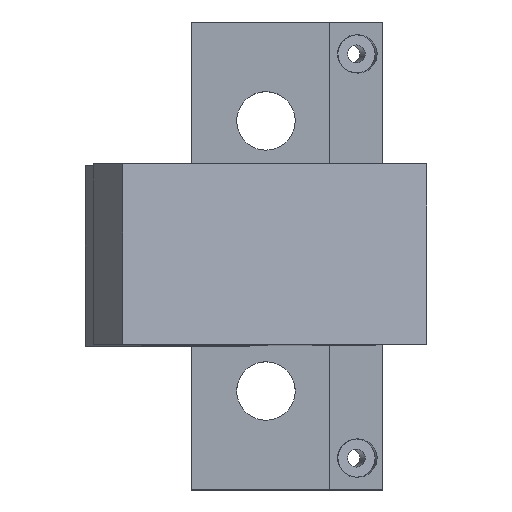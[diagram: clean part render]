
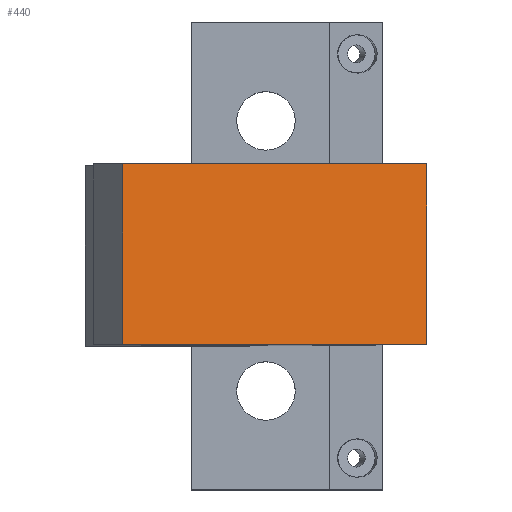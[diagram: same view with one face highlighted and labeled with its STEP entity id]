
A CAD part, top view. The second image highlights one B-rep face of the part: STEP entity #440.
In plain terms, the highlighted planar face has unit normal (0.216, 0, 0.976).
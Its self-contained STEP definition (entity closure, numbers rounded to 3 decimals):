
#44 = PLANE('',#45);
#45 = AXIS2_PLACEMENT_3D('',#46,#47,#48);
#46 = CARTESIAN_POINT('',(-32.836,-17.,11.377));
#47 = DIRECTION('',(0.,1.,0.));
#48 = DIRECTION('',(0.216,0.,0.976));
#100 = PLANE('',#101);
#101 = AXIS2_PLACEMENT_3D('',#102,#103,#104);
#102 = CARTESIAN_POINT('',(-32.836,17.,11.377));
#103 = DIRECTION('',(0.,1.,0.));
#104 = DIRECTION('',(0.216,0.,0.976));
#310 = PLANE('',#311);
#311 = AXIS2_PLACEMENT_3D('',#312,#313,#314);
#312 = CARTESIAN_POINT('',(-28.012,-17.,211.476));
#313 = DIRECTION('',(0.976,0.,-0.216));
#314 = DIRECTION('',(0.216,0.,0.976));
#369 = VERTEX_POINT('',#370);
#370 = CARTESIAN_POINT('',(-26.93,-17.,216.357));
#393 = VERTEX_POINT('',#394);
#394 = CARTESIAN_POINT('',(-26.93,17.,216.357));
#415 = EDGE_CURVE('',#369,#393,#416,.T.);
#416 = SURFACE_CURVE('',#417,(#421,#428),.PCURVE_S1.);
#417 = LINE('',#418,#419);
#418 = CARTESIAN_POINT('',(-26.93,-17.,216.357));
#419 = VECTOR('',#420,1.);
#420 = DIRECTION('',(0.,1.,0.));
#421 = PCURVE('',#310,#422);
#422 = DEFINITIONAL_REPRESENTATION('',(#423),#427);
#423 = LINE('',#424,#425);
#424 = CARTESIAN_POINT('',(5.,0.));
#425 = VECTOR('',#426,1.);
#426 = DIRECTION('',(0.,-1.));
#427 = ( GEOMETRIC_REPRESENTATION_CONTEXT(2) 
PARAMETRIC_REPRESENTATION_CONTEXT() REPRESENTATION_CONTEXT('2D SPACE',''
  ) );
#428 = PCURVE('',#429,#434);
#429 = PLANE('',#430);
#430 = AXIS2_PLACEMENT_3D('',#431,#432,#433);
#431 = CARTESIAN_POINT('',(10.755,-17.,208.003));
#432 = DIRECTION('',(0.216,0.,0.976));
#433 = DIRECTION('',(0.976,0.,-0.216));
#434 = DEFINITIONAL_REPRESENTATION('',(#435),#439);
#435 = LINE('',#436,#437);
#436 = CARTESIAN_POINT('',(-38.6,0.));
#437 = VECTOR('',#438,1.);
#438 = DIRECTION('',(0.,1.));
#439 = ( GEOMETRIC_REPRESENTATION_CONTEXT(2) 
PARAMETRIC_REPRESENTATION_CONTEXT() REPRESENTATION_CONTEXT('2D SPACE',''
  ) );
#440 = ADVANCED_FACE('',(#441),#429,.T.);
#441 = FACE_BOUND('',#442,.T.);
#442 = EDGE_LOOP('',(#443,#466,#467,#490));
#443 = ORIENTED_EDGE('',*,*,#444,.F.);
#444 = EDGE_CURVE('',#393,#445,#447,.T.);
#445 = VERTEX_POINT('',#446);
#446 = CARTESIAN_POINT('',(30.281,17.,203.674));
#447 = SURFACE_CURVE('',#448,(#452,#459),.PCURVE_S1.);
#448 = LINE('',#449,#450);
#449 = CARTESIAN_POINT('',(-26.93,17.,216.357));
#450 = VECTOR('',#451,1.);
#451 = DIRECTION('',(0.976,0.,-0.216)
  );
#452 = PCURVE('',#429,#453);
#453 = DEFINITIONAL_REPRESENTATION('',(#454),#458);
#454 = LINE('',#455,#456);
#455 = CARTESIAN_POINT('',(-38.6,34.));
#456 = VECTOR('',#457,1.);
#457 = DIRECTION('',(1.,0.));
#458 = ( GEOMETRIC_REPRESENTATION_CONTEXT(2) 
PARAMETRIC_REPRESENTATION_CONTEXT() REPRESENTATION_CONTEXT('2D SPACE',''
  ) );
#459 = PCURVE('',#100,#460);
#460 = DEFINITIONAL_REPRESENTATION('',(#461),#465);
#461 = LINE('',#462,#463);
#462 = CARTESIAN_POINT('',(201.4,-38.6));
#463 = VECTOR('',#464,1.);
#464 = DIRECTION('',(0.,1.));
#465 = ( GEOMETRIC_REPRESENTATION_CONTEXT(2) 
PARAMETRIC_REPRESENTATION_CONTEXT() REPRESENTATION_CONTEXT('2D SPACE',''
  ) );
#466 = ORIENTED_EDGE('',*,*,#415,.F.);
#467 = ORIENTED_EDGE('',*,*,#468,.F.);
#468 = EDGE_CURVE('',#469,#369,#471,.T.);
#469 = VERTEX_POINT('',#470);
#470 = CARTESIAN_POINT('',(30.281,-17.,203.674));
#471 = SURFACE_CURVE('',#472,(#476,#483),.PCURVE_S1.);
#472 = LINE('',#473,#474);
#473 = CARTESIAN_POINT('',(30.281,-17.,203.674));
#474 = VECTOR('',#475,1.);
#475 = DIRECTION('',(-0.976,0.,0.216));
#476 = PCURVE('',#429,#477);
#477 = DEFINITIONAL_REPRESENTATION('',(#478),#482);
#478 = LINE('',#479,#480);
#479 = CARTESIAN_POINT('',(20.,0.));
#480 = VECTOR('',#481,1.);
#481 = DIRECTION('',(-1.,0.));
#482 = ( GEOMETRIC_REPRESENTATION_CONTEXT(2) 
PARAMETRIC_REPRESENTATION_CONTEXT() REPRESENTATION_CONTEXT('2D SPACE',''
  ) );
#483 = PCURVE('',#44,#484);
#484 = DEFINITIONAL_REPRESENTATION('',(#485),#489);
#485 = LINE('',#486,#487);
#486 = CARTESIAN_POINT('',(201.4,20.));
#487 = VECTOR('',#488,1.);
#488 = DIRECTION('',(0.,-1.));
#489 = ( GEOMETRIC_REPRESENTATION_CONTEXT(2) 
PARAMETRIC_REPRESENTATION_CONTEXT() REPRESENTATION_CONTEXT('2D SPACE',''
  ) );
#490 = ORIENTED_EDGE('',*,*,#491,.T.);
#491 = EDGE_CURVE('',#469,#445,#492,.T.);
#492 = SURFACE_CURVE('',#493,(#497,#504),.PCURVE_S1.);
#493 = LINE('',#494,#495);
#494 = CARTESIAN_POINT('',(30.281,-17.,203.674));
#495 = VECTOR('',#496,1.);
#496 = DIRECTION('',(0.,1.,0.));
#497 = PCURVE('',#429,#498);
#498 = DEFINITIONAL_REPRESENTATION('',(#499),#503);
#499 = LINE('',#500,#501);
#500 = CARTESIAN_POINT('',(20.,0.));
#501 = VECTOR('',#502,1.);
#502 = DIRECTION('',(0.,1.));
#503 = ( GEOMETRIC_REPRESENTATION_CONTEXT(2) 
PARAMETRIC_REPRESENTATION_CONTEXT() REPRESENTATION_CONTEXT('2D SPACE',''
  ) );
#504 = PCURVE('',#505,#510);
#505 = PLANE('',#506);
#506 = AXIS2_PLACEMENT_3D('',#507,#508,#509);
#507 = CARTESIAN_POINT('',(-13.31,-17.,7.048));
#508 = DIRECTION('',(0.976,0.,-0.216));
#509 = DIRECTION('',(0.216,0.,0.976));
#510 = DEFINITIONAL_REPRESENTATION('',(#511),#515);
#511 = LINE('',#512,#513);
#512 = CARTESIAN_POINT('',(201.4,0.));
#513 = VECTOR('',#514,1.);
#514 = DIRECTION('',(0.,-1.));
#515 = ( GEOMETRIC_REPRESENTATION_CONTEXT(2) 
PARAMETRIC_REPRESENTATION_CONTEXT() REPRESENTATION_CONTEXT('2D SPACE',''
  ) );
